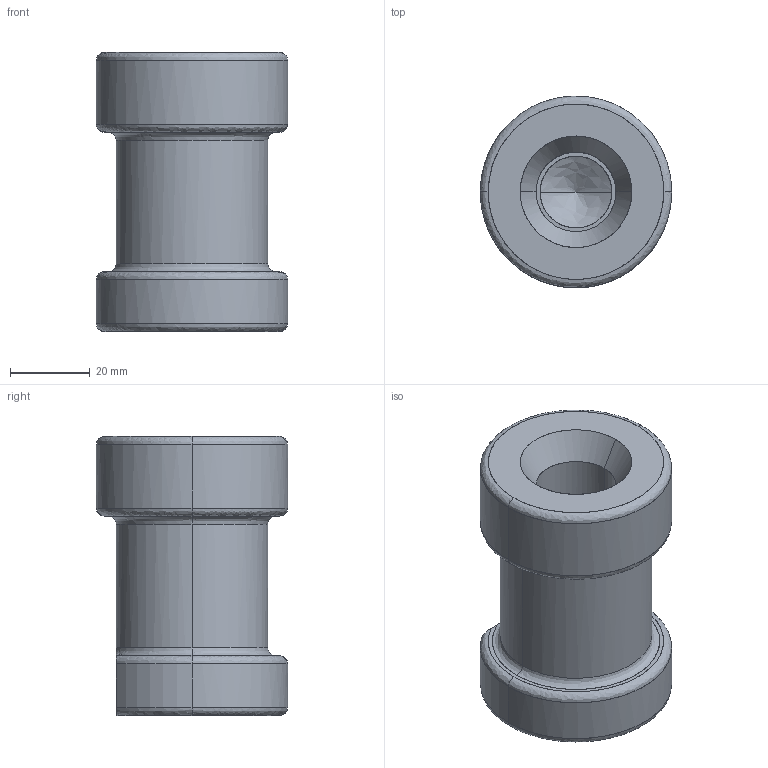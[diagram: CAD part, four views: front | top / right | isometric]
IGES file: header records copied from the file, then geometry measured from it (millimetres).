
Global section: file name: E:\UnigraphicsGraphicData\MISUMI_PRESS-PARTS\IGES\3d_csn20_03660_r00.igs; native system: NX V5.0; preprocessor: UGS NX IGES V5.0; author: MISUMI; date: 20110105.160455; units: millimetre
Bounding box: 48 x 47.97 x 70 mm (x, y, z)
Surface area: 16824.7 mm2 (no closed solid volume)
Topology: 0 solids, 0 shells, 36 faces, 263 edges, 261 vertices
Faces by surface type: bspline 36
